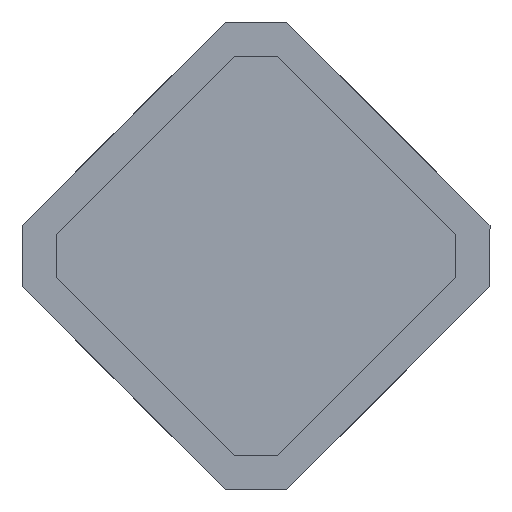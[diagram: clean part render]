
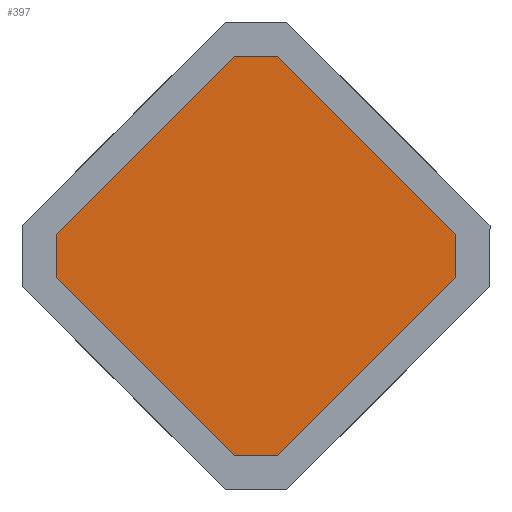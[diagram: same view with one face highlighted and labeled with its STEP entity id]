
A CAD part, left-side view. The second image highlights one B-rep face of the part: STEP entity #397.
In plain terms, the highlighted planar face has unit normal (-1, 0, 0).
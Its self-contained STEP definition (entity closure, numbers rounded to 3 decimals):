
#60 = ORIENTED_EDGE ( 'NONE', *, *, #92, .T. ) ;
#62 = DIRECTION ( 'NONE',  ( 1., 0., 0. ) ) ;
#64 = LINE ( 'NONE', #993, #496 ) ;
#80 = CARTESIAN_POINT ( 'NONE',  ( 45.2, 9.829, -0.561 ) ) ;
#82 = DIRECTION ( 'NONE',  ( 0., 0.707, 0.707 ) ) ;
#92 = EDGE_CURVE ( 'NONE', #443, #478, #591, .T. ) ;
#98 = VECTOR ( 'NONE', #227, 1000. ) ;
#102 = CARTESIAN_POINT ( 'NONE',  ( 45.2, -9.829, -0.561 ) ) ;
#114 = AXIS2_PLACEMENT_3D ( 'NONE', #599, #62, #864 ) ;
#162 = LINE ( 'NONE', #176, #463 ) ;
#170 = CARTESIAN_POINT ( 'NONE',  ( 45.2, -1.061, 10.329 ) ) ;
#176 = CARTESIAN_POINT ( 'NONE',  ( 45.2, 1.061, -9.329 ) ) ;
#227 = DIRECTION ( 'NONE',  ( 0., 0., -1. ) ) ;
#228 = VERTEX_POINT ( 'NONE', #102 ) ;
#265 = EDGE_CURVE ( 'NONE', #933, #443, #320, .T. ) ;
#278 = VECTOR ( 'NONE', #82, 1000. ) ;
#320 = LINE ( 'NONE', #1110, #98 ) ;
#348 = VECTOR ( 'NONE', #675, 1000. ) ;
#356 = CARTESIAN_POINT ( 'NONE',  ( 45.2, -1.061, 10.329 ) ) ;
#363 = CARTESIAN_POINT ( 'NONE',  ( 45.2, 1.061, -9.329 ) ) ;
#368 = DIRECTION ( 'NONE',  ( 0., 0., 1. ) ) ;
#397 = ADVANCED_FACE ( 'NONE', ( #952 ), #506, .F. ) ;
#416 = LINE ( 'NONE', #526, #929 ) ;
#443 = VERTEX_POINT ( 'NONE', #80 ) ;
#444 = VECTOR ( 'NONE', #368, 1000. ) ;
#451 = CARTESIAN_POINT ( 'NONE',  ( 45.2, -9.829, 1.561 ) ) ;
#455 = LINE ( 'NONE', #814, #444 ) ;
#460 = ORIENTED_EDGE ( 'NONE', *, *, #1102, .T. ) ;
#463 = VECTOR ( 'NONE', #525, 1000. ) ;
#478 = VERTEX_POINT ( 'NONE', #363 ) ;
#484 = ORIENTED_EDGE ( 'NONE', *, *, #265, .T. ) ;
#496 = VECTOR ( 'NONE', #820, 1000. ) ;
#506 = PLANE ( 'NONE',  #114 ) ;
#514 = CARTESIAN_POINT ( 'NONE',  ( 45.2, 5.445, -4.945 ) ) ;
#516 = VERTEX_POINT ( 'NONE', #451 ) ;
#525 = DIRECTION ( 'NONE',  ( 0., -1., 0. ) ) ;
#526 = CARTESIAN_POINT ( 'NONE',  ( 45.2, -10.889, 0.5 ) ) ;
#533 = ORIENTED_EDGE ( 'NONE', *, *, #559, .T. ) ;
#559 = EDGE_CURVE ( 'NONE', #228, #516, #455, .T. ) ;
#574 = ORIENTED_EDGE ( 'NONE', *, *, #727, .T. ) ;
#591 = LINE ( 'NONE', #514, #348 ) ;
#599 = CARTESIAN_POINT ( 'NONE',  ( 45.2, 0., 0. ) ) ;
#631 = CARTESIAN_POINT ( 'NONE',  ( 45.2, 1.061, 10.329 ) ) ;
#645 = ORIENTED_EDGE ( 'NONE', *, *, #753, .T. ) ;
#673 = CARTESIAN_POINT ( 'NONE',  ( 45.2, -1.061, -9.329 ) ) ;
#675 = DIRECTION ( 'NONE',  ( 0., -0.707, -0.707 ) ) ;
#709 = DIRECTION ( 'NONE',  ( 0., -0.707, 0.707 ) ) ;
#723 = VECTOR ( 'NONE', #1116, 1000. ) ;
#727 = EDGE_CURVE ( 'NONE', #978, #933, #64, .T. ) ;
#728 = CARTESIAN_POINT ( 'NONE',  ( 45.2, 9.829, 1.561 ) ) ;
#748 = ORIENTED_EDGE ( 'NONE', *, *, #776, .T. ) ;
#753 = EDGE_CURVE ( 'NONE', #516, #1101, #1031, .T. ) ;
#775 = ORIENTED_EDGE ( 'NONE', *, *, #854, .T. ) ;
#776 = EDGE_CURVE ( 'NONE', #1101, #978, #953, .T. ) ;
#808 = EDGE_LOOP ( 'NONE', ( #460, #533, #645, #748, #574, #484, #60, #775 ) ) ;
#814 = CARTESIAN_POINT ( 'NONE',  ( 45.2, -9.829, -0.561 ) ) ;
#816 = VERTEX_POINT ( 'NONE', #673 ) ;
#820 = DIRECTION ( 'NONE',  ( 0., 0.707, -0.707 ) ) ;
#854 = EDGE_CURVE ( 'NONE', #478, #816, #162, .T. ) ;
#864 = DIRECTION ( 'NONE',  ( 0., 0., -1. ) ) ;
#929 = VECTOR ( 'NONE', #709, 1000. ) ;
#933 = VERTEX_POINT ( 'NONE', #728 ) ;
#949 = CARTESIAN_POINT ( 'NONE',  ( 45.2, 0., 11.389 ) ) ;
#952 = FACE_OUTER_BOUND ( 'NONE', #808, .T. ) ;
#953 = LINE ( 'NONE', #170, #723 ) ;
#978 = VERTEX_POINT ( 'NONE', #631 ) ;
#993 = CARTESIAN_POINT ( 'NONE',  ( 45.2, 10.889, 0.5 ) ) ;
#1031 = LINE ( 'NONE', #949, #278 ) ;
#1101 = VERTEX_POINT ( 'NONE', #356 ) ;
#1102 = EDGE_CURVE ( 'NONE', #816, #228, #416, .T. ) ;
#1110 = CARTESIAN_POINT ( 'NONE',  ( 45.2, 9.829, 1.561 ) ) ;
#1116 = DIRECTION ( 'NONE',  ( 0., 1., 0. ) ) ;
